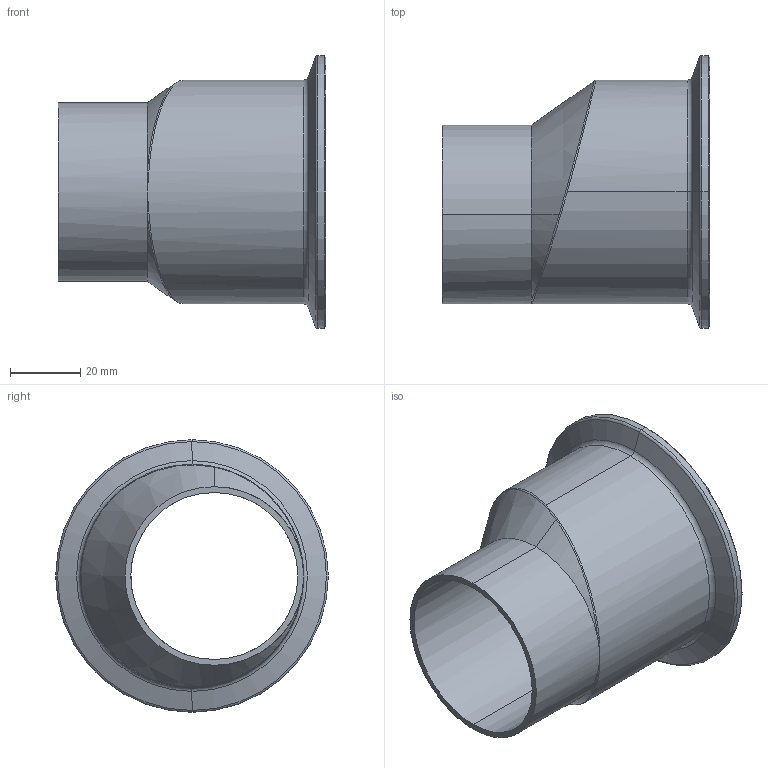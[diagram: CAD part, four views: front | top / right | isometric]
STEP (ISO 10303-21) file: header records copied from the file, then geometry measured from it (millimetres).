
FILE_DESCRIPTION (( 'STEP AP214' ), '1' );
FILE_NAME ('TE32SCW6L2.5x2.0-...STEP', '2016-06-01T10:04:32', ( 'eran' ), ( '' ), 'SwSTEP 2.0', 'SolidWorks 2016', '' );
FILE_SCHEMA (( 'AUTOMOTIVE_DESIGN' ));
Length unit declared in the file: millimetre
Products named in the file (1): TE32SCW6L2.5x2.0-..
Bounding box: 76.2 x 77.5 x 77.5 mm (x, y, z)
Volume: 56096.3 mm3; surface area: 30180.9 mm2
Topology: 1 solids, 1 shells, 47 faces, 104 edges, 56 vertices
Faces by surface type: cone 16, torus 13, cylinder 10, bspline 5, plane 3
Entity records: 2063 total; most frequent: CARTESIAN_POINT 1026, DIRECTION 228, ORIENTED_EDGE 200, AXIS2_PLACEMENT_3D 102, EDGE_CURVE 100, CIRCLE 59, VERTEX_POINT 56, EDGE_LOOP 50
